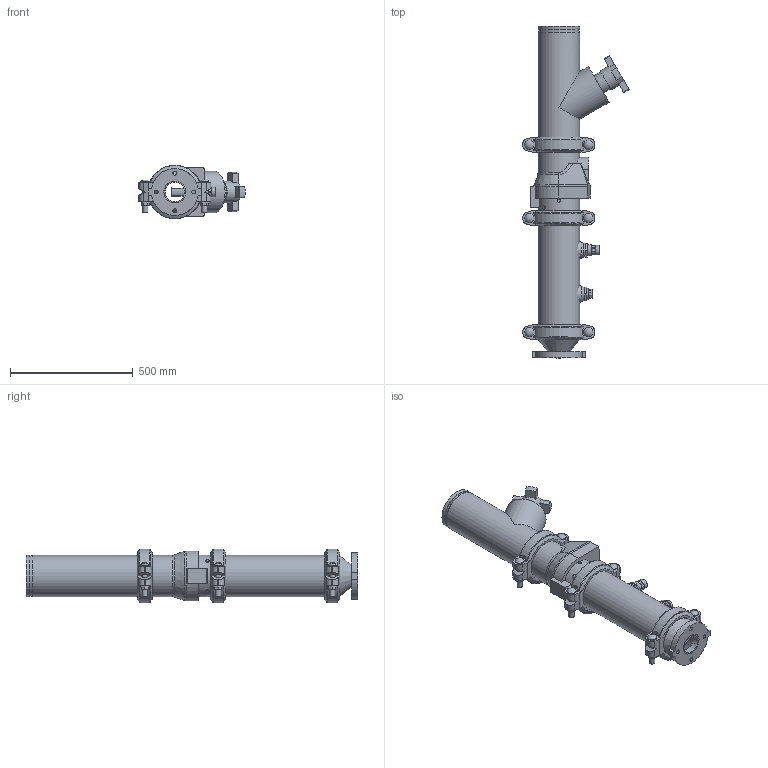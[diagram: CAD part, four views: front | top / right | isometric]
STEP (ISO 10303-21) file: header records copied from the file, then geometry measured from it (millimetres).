
FILE_DESCRIPTION(/* description */ ('VIC DVI PUMP DROP VERT S/383 (OGSxFLG) (S/924-0.75)','CAx-IF Rec.Pracs.---Representation and Presentation of Product Manufacturing Information (PMI)---4.0---2014-10-13'),/* implementation_level */ '2;1');
FILE_NAME(/* name */ 'C:\Users\Public\Documents\Victaulic.Temp\A849\Victaulic_IPS_Vertical DVI_CL 150_Series 383 (OGSxFLG)_924 (0.75)_06.0x03.0 (150x80).stp',/* time_stamp */ '2022-07-25T11:40:21+02:00',/* author */ ('Vjadhav'),/* organization */ ('Victaulic'),/* preprocessor_version */ 'ST-DEVELOPER v18',/* originating_system */ 'Autodesk Inventor 2020',/* authorisation */ '');
FILE_SCHEMA (('AP242_MANAGED_MODEL_BASED_3D_ENGINEERING_MIM_LF { 1 0 10303 442 1 1 4 }'));
Length unit declared in the file: inch
Products named in the file (9): 383_924 (0.75)-06.0x03.0; 741-03.0; 050-06.0x03.0; Pipe-06.0; 177N-06.0; 789-06.0; 779-06.0; 924-04.0x0.75; 923-04.0x0.75
Assembly tree (10 placements, depth 2):
  383_924 (0.75)-06.0x03.0
    741-03.0
    050-06.0x03.0
    177N-06.0  x3
    Pipe-06.0
    789-06.0
    779-06.0
    924-04.0x0.75
    923-04.0x0.75
Bounding box: 432.05 x 1349.5 x 219.2 mm (x, y, z)
Volume: 14176526.2 mm3; surface area: 2145203.8 mm2
Topology: 10 solids, 10 shells, 530 faces, 1403 edges, 942 vertices
Faces by surface type: plane 310, cylinder 175, cone 19, torus 18, sphere 6, bspline 2
Full cylindrical faces by diameter (mm): 13.716 x4, 15.875 x4, 21.209 x6, 26.67 x2, 37.694 x6, 38.608 x1, 45.974 x4, 55.626 x2, 77.927 x1, 79.375 x1, 84.938 x1, 88.9 x4, 154.051 x4, 155.575 x3, 163.957 x7, 168.275 x19
Entity records: 11979 total; most frequent: CARTESIAN_POINT 2465, DIRECTION 1956, ORIENTED_EDGE 1786, EDGE_CURVE 893, AXIS2_PLACEMENT_3D 745, VERTEX_POINT 606, LINE 466, VECTOR 466
